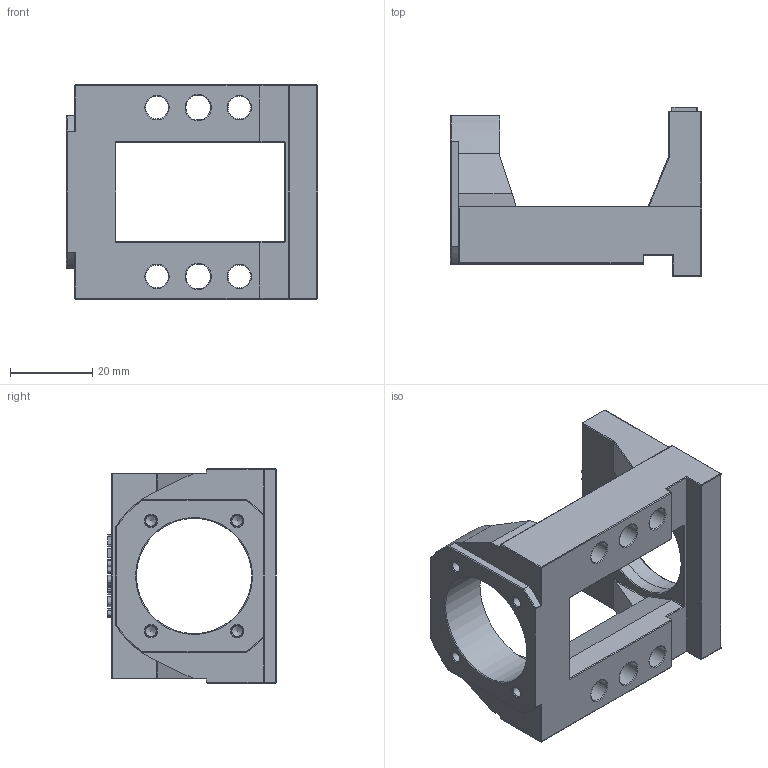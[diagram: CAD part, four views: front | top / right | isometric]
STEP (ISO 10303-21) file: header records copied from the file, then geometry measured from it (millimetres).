
FILE_DESCRIPTION(/* description */ (''),/* implementation_level */ '2;1');
FILE_NAME(/* name */ 'M40A-FKA6 8-A.stp',/* time_stamp */ '2016-10-27T09:50:02+08:00',/* author */ (''),/* organization */ (''),/* preprocessor_version */ 'ST-DEVELOPER v15',/* originating_system */ 'SIEMENS PLM Software NX 8.5',/* authorisation */ '');
FILE_SCHEMA (('CONFIG_CONTROL_DESIGN'));
Length unit declared in the file: millimetre
Products named in the file (1): MBA06 08A
Bounding box: 61 x 41 x 52 mm (x, y, z)
Volume: 34990.6 mm3; surface area: 15627.7 mm2
Topology: 1 solids, 1 shells, 273 faces, 695 edges, 426 vertices
Faces by surface type: plane 104, cylinder 79, extrusion 41, torus 21, cone 16, sphere 12
Full cylindrical faces by diameter (mm): 2.6 x8, 5.5 x4, 6 x2, 9.5 x4, 28 x2, 30 x1
Entity records: 8358 total; most frequent: CARTESIAN_POINT 2430, ORIENTED_EDGE 1224, DIRECTION 1030, EDGE_CURVE 612, VERTEX_POINT 413, AXIS2_PLACEMENT_3D 364, EDGE_LOOP 355, VECTOR 302
